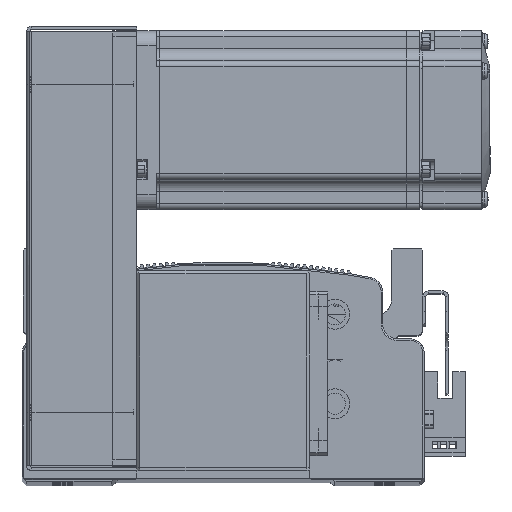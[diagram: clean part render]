
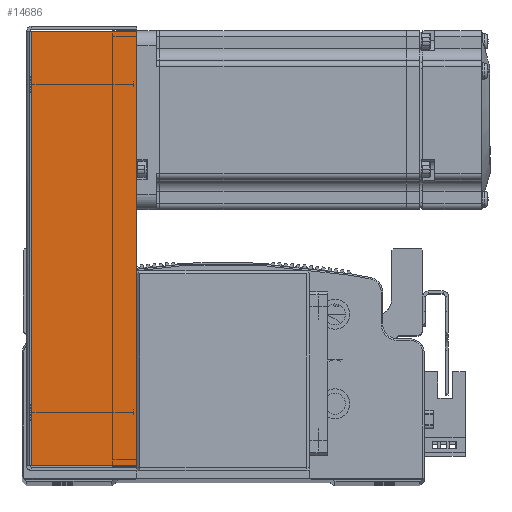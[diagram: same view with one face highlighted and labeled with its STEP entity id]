
A CAD part, top view. The second image highlights one B-rep face of the part: STEP entity #14686.
In plain terms, the highlighted planar face has unit normal (0, 0, 1).
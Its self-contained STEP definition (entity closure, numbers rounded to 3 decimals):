
#1930 = AXIS2_PLACEMENT_3D ( 'NONE', #40649, #40623, #40687 ) ;
#14686 = ADVANCED_FACE ( 'NONE', ( #57690 ), #40641, .F. ) ;
#17879 = VERTEX_POINT ( 'NONE', #50297 ) ;
#17935 = VERTEX_POINT ( 'NONE', #50492 ) ;
#17951 = VERTEX_POINT ( 'NONE', #50436 ) ;
#17972 = VERTEX_POINT ( 'NONE', #50573 ) ;
#21315 = LINE ( 'NONE', #55481, #21344 ) ;
#21332 = LINE ( 'NONE', #55544, #21368 ) ;
#21344 = VECTOR ( 'NONE', #55482, 1000. ) ;
#21368 = VECTOR ( 'NONE', #55534, 1000. ) ;
#21397 = VECTOR ( 'NONE', #35248, 1000. ) ;
#21398 = VECTOR ( 'NONE', #35213, 1000. ) ;
#21423 = LINE ( 'NONE', #35199, #21398 ) ;
#21431 = LINE ( 'NONE', #35258, #21397 ) ;
#35199 = CARTESIAN_POINT ( 'NONE',  ( -74.5, 0.737, 34.5 ) ) ;
#35213 = DIRECTION ( 'NONE',  ( -1., 0., 0. ) ) ;
#35248 = DIRECTION ( 'NONE',  ( 0., 1., 0. ) ) ;
#35258 = CARTESIAN_POINT ( 'NONE',  ( 72.793, 0., 34.5 ) ) ;
#40623 = DIRECTION ( 'NONE',  ( 0., 0., -1. ) ) ;
#40641 = PLANE ( 'NONE',  #1930 ) ;
#40649 = CARTESIAN_POINT ( 'NONE',  ( 0., 0., 34.5 ) ) ;
#40687 = DIRECTION ( 'NONE',  ( -1., 0., 0. ) ) ;
#50297 = CARTESIAN_POINT ( 'NONE',  ( -72.793, 0.737, 34.5 ) ) ;
#50436 = CARTESIAN_POINT ( 'NONE',  ( 72.793, 36., 34.5 ) ) ;
#50492 = CARTESIAN_POINT ( 'NONE',  ( -72.793, 36., 34.5 ) ) ;
#50573 = CARTESIAN_POINT ( 'NONE',  ( 72.793, 0.737, 34.5 ) ) ;
#55481 = CARTESIAN_POINT ( 'NONE',  ( 0., 36., 34.5 ) ) ;
#55482 = DIRECTION ( 'NONE',  ( -1., 0., 0. ) ) ;
#55534 = DIRECTION ( 'NONE',  ( 0., 1., 0. ) ) ;
#55544 = CARTESIAN_POINT ( 'NONE',  ( -72.793, 0., 34.5 ) ) ;
#57690 = FACE_OUTER_BOUND ( 'NONE', #81952, .T. ) ;
#74355 = EDGE_CURVE ( 'NONE', #17951, #17935, #21315, .T. ) ;
#74364 = EDGE_CURVE ( 'NONE', #17879, #17935, #21332, .T. ) ;
#74407 = EDGE_CURVE ( 'NONE', #17972, #17879, #21423, .T. ) ;
#74414 = EDGE_CURVE ( 'NONE', #17972, #17951, #21431, .T. ) ;
#80473 = ORIENTED_EDGE ( 'NONE', *, *, #74364, .F. ) ;
#80563 = ORIENTED_EDGE ( 'NONE', *, *, #74407, .F. ) ;
#80671 = ORIENTED_EDGE ( 'NONE', *, *, #74355, .T. ) ;
#80679 = ORIENTED_EDGE ( 'NONE', *, *, #74414, .T. ) ;
#81952 = EDGE_LOOP ( 'NONE', ( #80563, #80679, #80671, #80473 ) ) ;
